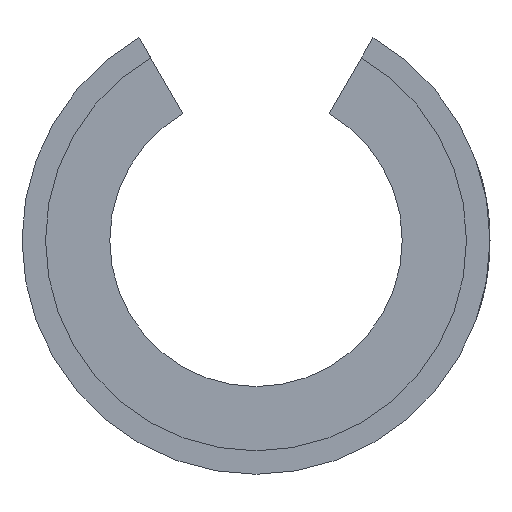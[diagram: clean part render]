
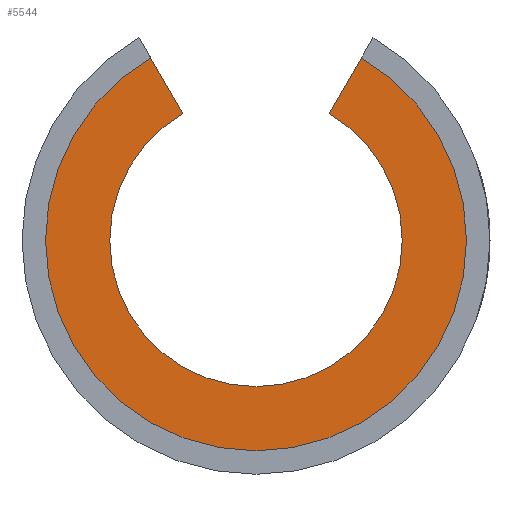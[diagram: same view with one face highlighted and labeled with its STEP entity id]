
A CAD part, left-side view. The second image highlights one B-rep face of the part: STEP entity #5544.
In plain terms, the highlighted planar face has unit normal (-1, 0, 0).
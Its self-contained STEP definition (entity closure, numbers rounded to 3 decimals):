
#122=PLANE('',#5979);
#371=CIRCLE('',#5955,10.);
#383=CIRCLE('',#5980,14.392);
#583=LINE('',#8748,#1060);
#584=LINE('',#8752,#1061);
#1060=VECTOR('',#6612,1000.);
#1061=VECTOR('',#6615,1000.);
#1720=ORIENTED_EDGE('',*,*,#3385,.T.);
#1721=ORIENTED_EDGE('',*,*,#3386,.F.);
#1722=ORIENTED_EDGE('',*,*,#3387,.T.);
#1723=ORIENTED_EDGE('',*,*,#3348,.T.);
#3348=EDGE_CURVE('',#4188,#4187,#371,.F.);
#3385=EDGE_CURVE('',#4187,#4211,#583,.T.);
#3386=EDGE_CURVE('',#4212,#4211,#383,.T.);
#3387=EDGE_CURVE('',#4212,#4188,#584,.T.);
#4187=VERTEX_POINT('',#8674);
#4188=VERTEX_POINT('',#8676);
#4211=VERTEX_POINT('',#8749);
#4212=VERTEX_POINT('',#8751);
#4745=EDGE_LOOP('',(#1720,#1721,#1722,#1723));
#5135=FACE_BOUND('',#4745,.T.);
#5544=ADVANCED_FACE('',(#5135),#122,.T.);
#5955=AXIS2_PLACEMENT_3D('',#8675,#6537,#6538);
#5979=AXIS2_PLACEMENT_3D('',#8747,#6610,#6611);
#5980=AXIS2_PLACEMENT_3D('',#8750,#6613,#6614);
#6537=DIRECTION('',(-1.,0.,0.));
#6538=DIRECTION('',(0.,0.,1.));
#6610=DIRECTION('',(-1.,0.,0.));
#6611=DIRECTION('',(0.,0.,-1.));
#6612=DIRECTION('',(0.,0.5,0.866));
#6613=DIRECTION('',(1.,0.,0.));
#6614=DIRECTION('',(0.,0.,-1.));
#6615=DIRECTION('',(0.,0.5,-0.866));
#8674=CARTESIAN_POINT('',(-20.9,5.,8.66));
#8675=CARTESIAN_POINT('',(-20.9,0.,0.));
#8676=CARTESIAN_POINT('',(-20.9,-5.,8.66));
#8747=CARTESIAN_POINT('',(-20.9,0.,0.));
#8748=CARTESIAN_POINT('',(-20.9,5.,8.66));
#8749=CARTESIAN_POINT('',(-20.9,7.196,12.464));
#8750=CARTESIAN_POINT('',(-20.9,0.,0.));
#8751=CARTESIAN_POINT('',(-20.9,-7.196,12.464));
#8752=CARTESIAN_POINT('',(-20.9,-5.,8.66));
